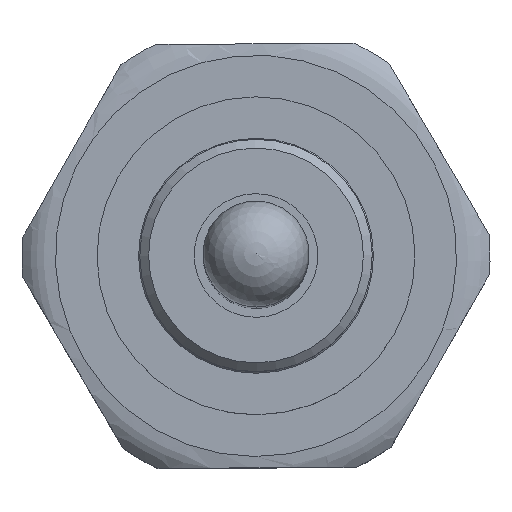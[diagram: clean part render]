
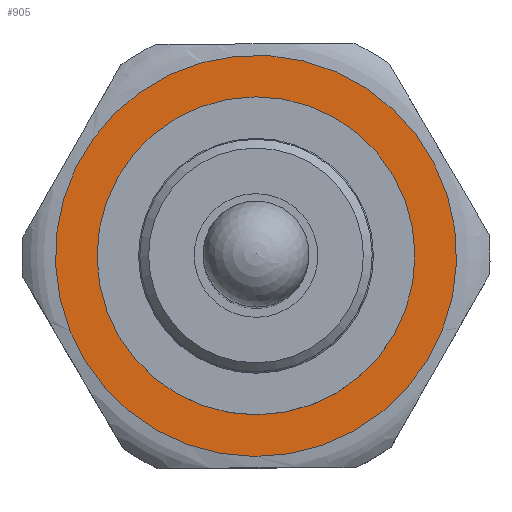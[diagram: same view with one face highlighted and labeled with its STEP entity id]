
A CAD part, top view. The second image highlights one B-rep face of the part: STEP entity #905.
In plain terms, the highlighted planar face has unit normal (0, 0, 1).
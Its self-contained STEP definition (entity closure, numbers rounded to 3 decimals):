
#619=CARTESIAN_POINT('',(-5.623,-9.867,9.0));
#620=VERTEX_POINT('',#619);
#621=CARTESIAN_POINT('',(0.,0.,9.));
#622=DIRECTION('',(0.,0.,1.0));
#623=DIRECTION('',(-0.869,0.495,0.));
#624=AXIS2_PLACEMENT_3D('',#621,#622,#623);
#625=CIRCLE('',#624,11.356);
#626=EDGE_CURVE('',#620,#620,#625,.T.);
#886=CARTESIAN_POINT('',(-5.659,-9.929,9.));
#887=DIRECTION('',(0.0,0.0,-1.0));
#888=DIRECTION('',(-0.869,0.495,0.0));
#889=AXIS2_PLACEMENT_3D('',#886,#887,#888);
#890=PLANE('',#889);
#891=ORIENTED_EDGE('',*,*,#626,.T.);
#892=EDGE_LOOP('',(#891));
#893=FACE_OUTER_BOUND('',#892,.T.);
#894=CARTESIAN_POINT('',(-4.456,-7.819,9.));
#895=VERTEX_POINT('',#894);
#896=CARTESIAN_POINT('',(0.,0.,9.));
#897=DIRECTION('',(0.,0.,-1.0));
#898=DIRECTION('',(-0.495,-0.869,0.));
#899=AXIS2_PLACEMENT_3D('',#896,#897,#898);
#900=CIRCLE('',#899,9.);
#901=EDGE_CURVE('',#895,#895,#900,.T.);
#902=ORIENTED_EDGE('',*,*,#901,.T.);
#903=EDGE_LOOP('',(#902));
#904=FACE_BOUND('',#903,.T.);
#905=ADVANCED_FACE('',(#893,#904),#890,.F.);
